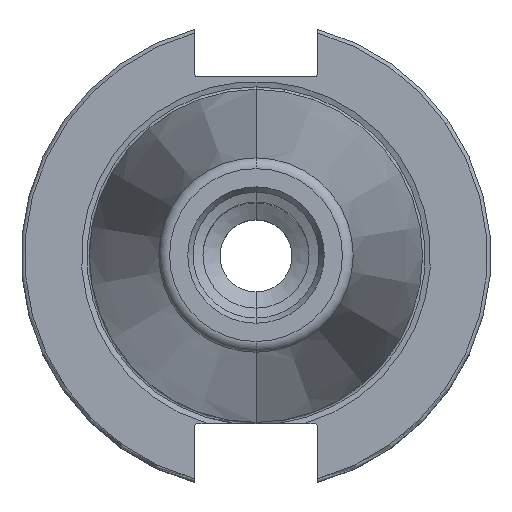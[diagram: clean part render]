
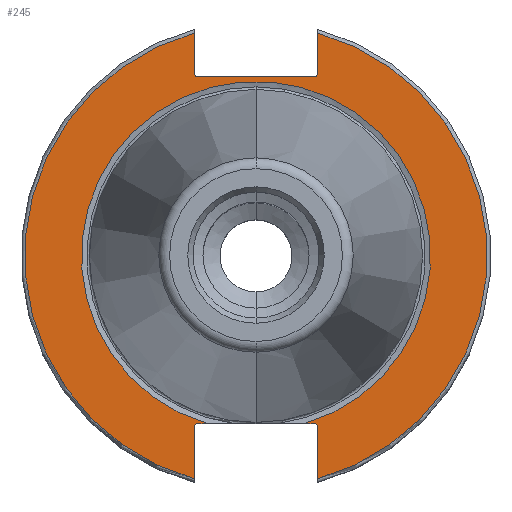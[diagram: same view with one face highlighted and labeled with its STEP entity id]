
A CAD part, top view. The second image highlights one B-rep face of the part: STEP entity #245.
In plain terms, the highlighted planar face has unit normal (0, 0, 1).
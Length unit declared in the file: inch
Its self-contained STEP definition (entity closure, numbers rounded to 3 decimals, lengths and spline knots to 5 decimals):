
#15 = DIRECTION ( 'NONE',  ( 0., 0., -1. ) ) ;
#42 = DIRECTION ( 'NONE',  ( 0., 0., -1. ) ) ;
#66 = CIRCLE ( 'NONE', #581, 0.03 ) ;
#129 = EDGE_CURVE ( 'NONE', #2259, #3753, #2933, .T. ) ;
#186 = EDGE_CURVE ( 'NONE', #2095, #1245, #2023, .T. ) ;
#245 = ADVANCED_FACE ( 'NONE', ( #689 ), #1334, .T. ) ;
#315 = EDGE_CURVE ( 'NONE', #2806, #2259, #1357, .T. ) ;
#390 = CARTESIAN_POINT ( 'NONE',  ( 0.51, 1.83806, -0.125 ) ) ;
#402 = EDGE_CURVE ( 'NONE', #2902, #2817, #1362, .T. ) ;
#417 = CARTESIAN_POINT ( 'NONE',  ( 1.9075, 1.4775, -0.125 ) ) ;
#508 = CIRCLE ( 'NONE', #910, 0.03 ) ;
#581 = AXIS2_PLACEMENT_3D ( 'NONE', #3774, #657, #3113 ) ;
#635 = CARTESIAN_POINT ( 'NONE',  ( 0.51, 0., -0.125 ) ) ;
#657 = DIRECTION ( 'NONE',  ( 0., 0., -1. ) ) ;
#689 = FACE_OUTER_BOUND ( 'NONE', #1932, .T. ) ;
#753 = DIRECTION ( 'NONE',  ( 0., 1., 0. ) ) ;
#757 = CARTESIAN_POINT ( 'NONE',  ( -0.51, -1.83806, -0.125 ) ) ;
#893 = VERTEX_POINT ( 'NONE', #1206 ) ;
#899 = VECTOR ( 'NONE', #3270, 39.37008 ) ;
#903 = AXIS2_PLACEMENT_3D ( 'NONE', #3638, #15, #753 ) ;
#910 = AXIS2_PLACEMENT_3D ( 'NONE', #3739, #2621, #4088 ) ;
#949 = ORIENTED_EDGE ( 'NONE', *, *, #3856, .T. ) ;
#1055 = VECTOR ( 'NONE', #1330, 39.37008 ) ;
#1064 = CARTESIAN_POINT ( 'NONE',  ( 0.51, 1.5075, -0.125 ) ) ;
#1101 = VECTOR ( 'NONE', #3312, 39.37008 ) ;
#1135 = CARTESIAN_POINT ( 'NONE',  ( -0.48, 1.4775, -0.125 ) ) ;
#1139 = ORIENTED_EDGE ( 'NONE', *, *, #2636, .T. ) ;
#1187 = EDGE_CURVE ( 'NONE', #893, #1292, #508, .T. ) ;
#1191 = DIRECTION ( 'NONE',  ( 1., 0., 0. ) ) ;
#1206 = CARTESIAN_POINT ( 'NONE',  ( -0.51, -1.4125, -0.125 ) ) ;
#1245 = VERTEX_POINT ( 'NONE', #4040 ) ;
#1285 = CARTESIAN_POINT ( 'NONE',  ( 1.9075, -1.3825, -0.125 ) ) ;
#1292 = VERTEX_POINT ( 'NONE', #1494 ) ;
#1293 = VERTEX_POINT ( 'NONE', #1135 ) ;
#1330 = DIRECTION ( 'NONE',  ( 0., 1., 0. ) ) ;
#1334 = PLANE ( 'NONE',  #4109 ) ;
#1357 = CIRCLE ( 'NONE', #4644, 1.9075 ) ;
#1362 = CIRCLE ( 'NONE', #3489, 1.43979 ) ;
#1408 = ORIENTED_EDGE ( 'NONE', *, *, #1733, .T. ) ;
#1410 = CARTESIAN_POINT ( 'NONE',  ( -0.48, 1.5075, -0.125 ) ) ;
#1471 = DIRECTION ( 'NONE',  ( 0., -1., 0. ) ) ;
#1494 = CARTESIAN_POINT ( 'NONE',  ( -0.48, -1.3825, -0.125 ) ) ;
#1675 = DIRECTION ( 'NONE',  ( 0., 1., 0. ) ) ;
#1692 = EDGE_CURVE ( 'NONE', #1293, #3652, #3681, .T. ) ;
#1733 = EDGE_CURVE ( 'NONE', #2817, #2095, #3904, .T. ) ;
#1750 = ORIENTED_EDGE ( 'NONE', *, *, #1187, .T. ) ;
#1846 = CARTESIAN_POINT ( 'NONE',  ( 0.40209, -1.3825, -0.125 ) ) ;
#1909 = ORIENTED_EDGE ( 'NONE', *, *, #2737, .T. ) ;
#1918 = ORIENTED_EDGE ( 'NONE', *, *, #2069, .F. ) ;
#1932 = EDGE_LOOP ( 'NONE', ( #2122, #3520, #1139, #1750, #949, #4360, #1408, #4217, #2825, #1918, #2947, #1909, #2394, #2492 ) ) ;
#2023 = CIRCLE ( 'NONE', #3267, 0.03 ) ;
#2061 = VERTEX_POINT ( 'NONE', #390 ) ;
#2069 = EDGE_CURVE ( 'NONE', #2061, #2990, #4347, .T. ) ;
#2080 = DIRECTION ( 'NONE',  ( 1., 0., 0. ) ) ;
#2095 = VERTEX_POINT ( 'NONE', #2530 ) ;
#2122 = ORIENTED_EDGE ( 'NONE', *, *, #129, .F. ) ;
#2259 = VERTEX_POINT ( 'NONE', #3679 ) ;
#2394 = ORIENTED_EDGE ( 'NONE', *, *, #1692, .F. ) ;
#2415 = VERTEX_POINT ( 'NONE', #1064 ) ;
#2428 = DIRECTION ( 'NONE',  ( 0., 0., -1. ) ) ;
#2488 = DIRECTION ( 'NONE',  ( 0., 0., 1. ) ) ;
#2492 = ORIENTED_EDGE ( 'NONE', *, *, #3824, .T. ) ;
#2498 = DIRECTION ( 'NONE',  ( 0., 0., -1. ) ) ;
#2506 = CARTESIAN_POINT ( 'NONE',  ( 0.51, -1.83806, -0.125 ) ) ;
#2530 = CARTESIAN_POINT ( 'NONE',  ( 0.48, -1.3825, -0.125 ) ) ;
#2621 = DIRECTION ( 'NONE',  ( 0., 0., -1. ) ) ;
#2627 = VECTOR ( 'NONE', #1191, 39.37008 ) ;
#2636 = EDGE_CURVE ( 'NONE', #2806, #893, #3963, .T. ) ;
#2737 = EDGE_CURVE ( 'NONE', #2415, #3652, #66, .T. ) ;
#2806 = VERTEX_POINT ( 'NONE', #757 ) ;
#2817 = VERTEX_POINT ( 'NONE', #1846 ) ;
#2820 = DIRECTION ( 'NONE',  ( 0., -1., 0. ) ) ;
#2825 = ORIENTED_EDGE ( 'NONE', *, *, #3516, .T. ) ;
#2849 = CARTESIAN_POINT ( 'NONE',  ( 0., 0., -0.125 ) ) ;
#2866 = DIRECTION ( 'NONE',  ( 0., 0., -1. ) ) ;
#2867 = CARTESIAN_POINT ( 'NONE',  ( -0.51, 0., -0.125 ) ) ;
#2902 = VERTEX_POINT ( 'NONE', #3185 ) ;
#2933 = LINE ( 'NONE', #4083, #899 ) ;
#2947 = ORIENTED_EDGE ( 'NONE', *, *, #4271, .F. ) ;
#2987 = LINE ( 'NONE', #3316, #2627 ) ;
#2990 = VERTEX_POINT ( 'NONE', #2506 ) ;
#3113 = DIRECTION ( 'NONE',  ( 0., -1., 0. ) ) ;
#3185 = CARTESIAN_POINT ( 'NONE',  ( -0.40209, -1.3825, -0.125 ) ) ;
#3197 = CARTESIAN_POINT ( 'NONE',  ( 1.9075, 0., -0.125 ) ) ;
#3267 = AXIS2_PLACEMENT_3D ( 'NONE', #3290, #42, #1471 ) ;
#3270 = DIRECTION ( 'NONE',  ( 0., -1., 0. ) ) ;
#3290 = CARTESIAN_POINT ( 'NONE',  ( 0.48, -1.4125, -0.125 ) ) ;
#3312 = DIRECTION ( 'NONE',  ( 0., 1., 0. ) ) ;
#3316 = CARTESIAN_POINT ( 'NONE',  ( 1.9075, -1.3825, -0.125 ) ) ;
#3390 = AXIS2_PLACEMENT_3D ( 'NONE', #1410, #2498, #3972 ) ;
#3489 = AXIS2_PLACEMENT_3D ( 'NONE', #3579, #2428, #3884 ) ;
#3516 = EDGE_CURVE ( 'NONE', #1245, #2990, #4629, .T. ) ;
#3520 = ORIENTED_EDGE ( 'NONE', *, *, #315, .F. ) ;
#3560 = DIRECTION ( 'NONE',  ( 0., -1., 0. ) ) ;
#3579 = CARTESIAN_POINT ( 'NONE',  ( 0., 0., -0.125 ) ) ;
#3584 = VECTOR ( 'NONE', #4216, 39.37008 ) ;
#3638 = CARTESIAN_POINT ( 'NONE',  ( 0., 0., -0.125 ) ) ;
#3651 = CIRCLE ( 'NONE', #3390, 0.03 ) ;
#3652 = VERTEX_POINT ( 'NONE', #4569 ) ;
#3679 = CARTESIAN_POINT ( 'NONE',  ( -0.51, 1.83806, -0.125 ) ) ;
#3681 = LINE ( 'NONE', #417, #3802 ) ;
#3739 = CARTESIAN_POINT ( 'NONE',  ( -0.48, -1.4125, -0.125 ) ) ;
#3753 = VERTEX_POINT ( 'NONE', #4338 ) ;
#3774 = CARTESIAN_POINT ( 'NONE',  ( 0.48, 1.5075, -0.125 ) ) ;
#3802 = VECTOR ( 'NONE', #2080, 39.37008 ) ;
#3824 = EDGE_CURVE ( 'NONE', #1293, #3753, #3651, .T. ) ;
#3856 = EDGE_CURVE ( 'NONE', #1292, #2902, #2987, .T. ) ;
#3884 = DIRECTION ( 'NONE',  ( 0., 1., 0. ) ) ;
#3904 = LINE ( 'NONE', #1285, #3584 ) ;
#3913 = VECTOR ( 'NONE', #3560, 39.37008 ) ;
#3963 = LINE ( 'NONE', #2867, #1101 ) ;
#3972 = DIRECTION ( 'NONE',  ( 0., -1., 0. ) ) ;
#4040 = CARTESIAN_POINT ( 'NONE',  ( 0.51, -1.4125, -0.125 ) ) ;
#4083 = CARTESIAN_POINT ( 'NONE',  ( -0.51, 0., -0.125 ) ) ;
#4088 = DIRECTION ( 'NONE',  ( 0., -1., 0. ) ) ;
#4109 = AXIS2_PLACEMENT_3D ( 'NONE', #3197, #2488, #2820 ) ;
#4216 = DIRECTION ( 'NONE',  ( 1., 0., 0. ) ) ;
#4217 = ORIENTED_EDGE ( 'NONE', *, *, #186, .T. ) ;
#4250 = CARTESIAN_POINT ( 'NONE',  ( 0.51, 0., -0.125 ) ) ;
#4271 = EDGE_CURVE ( 'NONE', #2415, #2061, #4608, .T. ) ;
#4338 = CARTESIAN_POINT ( 'NONE',  ( -0.51, 1.5075, -0.125 ) ) ;
#4347 = CIRCLE ( 'NONE', #903, 1.9075 ) ;
#4360 = ORIENTED_EDGE ( 'NONE', *, *, #402, .T. ) ;
#4569 = CARTESIAN_POINT ( 'NONE',  ( 0.48, 1.4775, -0.125 ) ) ;
#4608 = LINE ( 'NONE', #4250, #1055 ) ;
#4629 = LINE ( 'NONE', #635, #3913 ) ;
#4644 = AXIS2_PLACEMENT_3D ( 'NONE', #2849, #2866, #1675 ) ;
